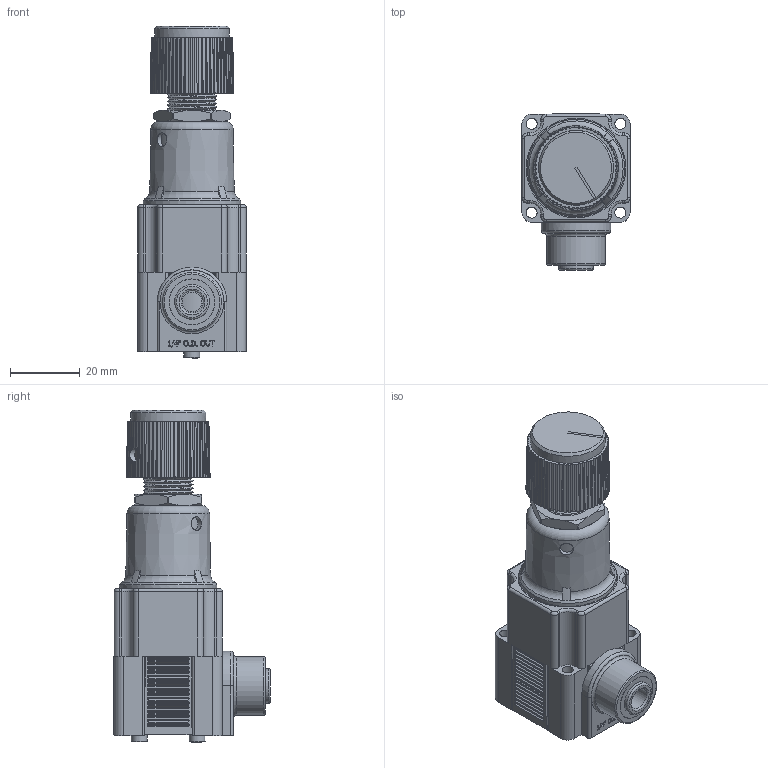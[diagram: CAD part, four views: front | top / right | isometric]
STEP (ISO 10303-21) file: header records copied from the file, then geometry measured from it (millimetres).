
FILE_DESCRIPTION(/* description */ (''),/* implementation_level */ '2;1');
FILE_NAME(/* name */ 'K:\Normteile INVENTOR\Air-Logic\Regulators\R6000\R 6___ 5 Push-In Fitting for 1''4 O.D. Tube Out.igs.ipt.stp',/* time_stamp */ '2020-05-27T10:57:17+02:00',/* author */ ('Paul'),/* organization */ (''),/* preprocessor_version */ 'ST-DEVELOPER v18',/* originating_system */ 'Autodesk Inventor 2020',/* authorisation */ '');
FILE_SCHEMA (('AUTOMOTIVE_DESIGN { 1 0 10303 214 3 1 1 }'));
Length unit declared in the file: inch
Products named in the file (1): R 6___ 5 Push-In Fitting for 1'4 O.D. Tube Out.igs
Bounding box: 31.19 x 44.8 x 95.02 mm (x, y, z)
Volume: 59089 mm3; surface area: 19031.9 mm2
Topology: 1 solids, 1 shells, 1083 faces, 2801 edges, 1811 vertices
Faces by surface type: plane 544, cylinder 352, cone 83, bspline 68, torus 36
Full cylindrical faces by diameter (mm): 1.194 x1, 2.032 x1, 3.124 x2, 3.175 x8, 3.988 x1, 4.064 x1, 4.521 x2, 5.639 x1, 6.35 x1, 8.382 x2, 9.169 x1, 9.398 x1, 9.906 x1, 12.903 x1, 13.132 x1, 13.144 x1, 16.764 x1, 19.406 x1, 21.476 x1, 27.94 x1, 28.575 x1
Entity records: 39742 total; most frequent: CARTESIAN_POINT 11802, DIRECTION 5695, ORIENTED_EDGE 5602, EDGE_CURVE 2801, AXIS2_PLACEMENT_3D 2155, VERTEX_POINT 1811, LINE 1385, VECTOR 1385
